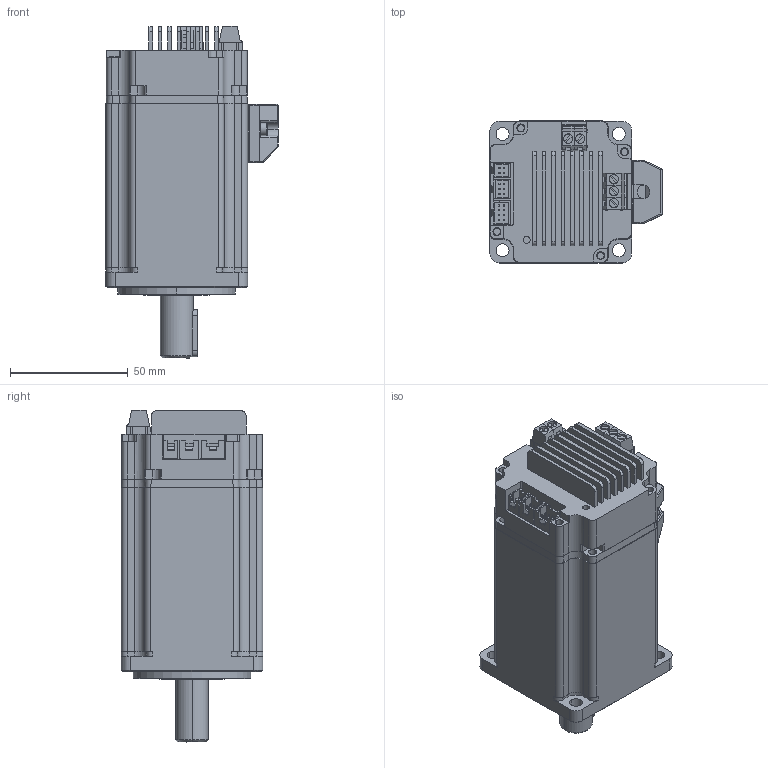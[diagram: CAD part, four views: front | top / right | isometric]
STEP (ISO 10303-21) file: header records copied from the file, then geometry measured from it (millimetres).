
FILE_DESCRIPTION (( 'STEP AP214' ), '1' );
FILE_NAME ('FC24P60400W.STEP', '2023-12-04T05:08:12', ( 'shaun' ), ( '' ), 'SwSTEP 2.0', 'SolidWorks 2020', '' );
FILE_SCHEMA (( 'AUTOMOTIVE_DESIGN' ));
Length unit declared in the file: millimetre
Products named in the file (3): FC24P60400W; CONBINED_CONTROLLER; 400W_OLD_MODEL
Assembly tree (2 placements, depth 2):
  FC24P60400W
    400W_OLD_MODEL
    CONBINED_CONTROLLER
Bounding box: 73.3 x 60.3 x 141.28 mm (x, y, z)
Volume: 109591 mm3; surface area: 119557 mm2
Topology: 323 solids, 323 shells, 3692 faces, 8678 edges, 5643 vertices
Faces by surface type: plane 1770, cylinder 1740, cone 82, torus 68, sphere 32
Entity records: 153006 total; most frequent: CARTESIAN_POINT 20058, DIRECTION 19467, ORIENTED_EDGE 17238, EDGE_CURVE 8619, AXIS2_PLACEMENT_3D 7369, VERTEX_POINT 5630, VECTOR 4729, LINE 4729
